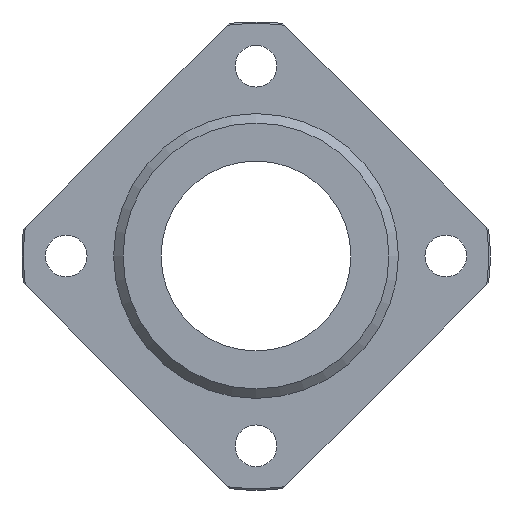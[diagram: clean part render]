
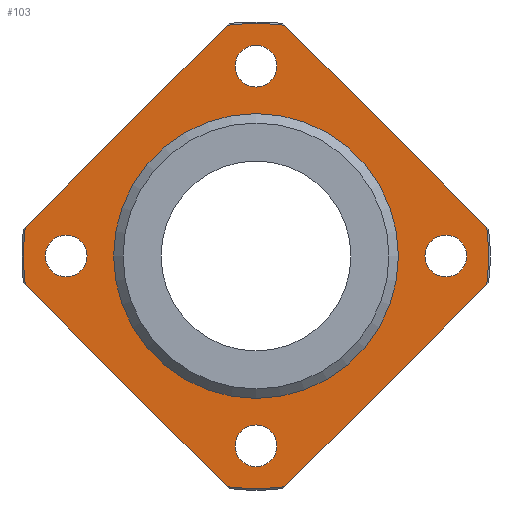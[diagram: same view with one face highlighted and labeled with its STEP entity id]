
A CAD part, left-side view. The second image highlights one B-rep face of the part: STEP entity #103.
In plain terms, the highlighted planar face has unit normal (-1, 0, 0).
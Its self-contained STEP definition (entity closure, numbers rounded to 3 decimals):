
#103=ADVANCED_FACE('',(#188,#189,#190,#191,#192,#193),#194,.F.);
#188=FACE_OUTER_BOUND('',#291,.T.);
#189=FACE_BOUND('',#292,.T.);
#190=FACE_BOUND('',#293,.T.);
#191=FACE_BOUND('',#294,.T.);
#192=FACE_BOUND('',#295,.T.);
#193=FACE_BOUND('',#296,.T.);
#194=PLANE('',#297);
#291=EDGE_LOOP('',(#512,#513,#514,#515,#516,#517,#518,#519));
#292=EDGE_LOOP('',(#520));
#293=EDGE_LOOP('',(#521));
#294=EDGE_LOOP('',(#522));
#295=EDGE_LOOP('',(#523));
#296=EDGE_LOOP('',(#524));
#297=AXIS2_PLACEMENT_3D('',#525,#526,#527);
#512=ORIENTED_EDGE('',*,*,#638,.T.);
#513=ORIENTED_EDGE('',*,*,#624,.T.);
#514=ORIENTED_EDGE('',*,*,#639,.T.);
#515=ORIENTED_EDGE('',*,*,#589,.T.);
#516=ORIENTED_EDGE('',*,*,#640,.T.);
#517=ORIENTED_EDGE('',*,*,#596,.T.);
#518=ORIENTED_EDGE('',*,*,#582,.T.);
#519=ORIENTED_EDGE('',*,*,#578,.T.);
#520=ORIENTED_EDGE('',*,*,#627,.T.);
#521=ORIENTED_EDGE('',*,*,#630,.T.);
#522=ORIENTED_EDGE('',*,*,#633,.T.);
#523=ORIENTED_EDGE('',*,*,#636,.T.);
#524=ORIENTED_EDGE('',*,*,#641,.T.);
#525=CARTESIAN_POINT('',(-14.0,36.746,0.0));
#526=DIRECTION('',(1.0,0.0,0.0));
#527=DIRECTION('',(0.0,0.0,-1.0));
#578=EDGE_CURVE('',#655,#653,#656,.T.);
#582=EDGE_CURVE('',#662,#655,#663,.T.);
#589=EDGE_CURVE('',#676,#674,#677,.T.);
#596=EDGE_CURVE('',#689,#662,#690,.T.);
#624=EDGE_CURVE('',#734,#732,#735,.T.);
#627=EDGE_CURVE('',#739,#739,#740,.T.);
#630=EDGE_CURVE('',#745,#745,#746,.T.);
#633=EDGE_CURVE('',#751,#751,#752,.T.);
#636=EDGE_CURVE('',#757,#757,#758,.T.);
#638=EDGE_CURVE('',#653,#734,#761,.T.);
#639=EDGE_CURVE('',#732,#676,#762,.T.);
#640=EDGE_CURVE('',#674,#689,#763,.T.);
#641=EDGE_CURVE('',#764,#764,#765,.T.);
#653=VERTEX_POINT('',#786);
#655=VERTEX_POINT('',#791);
#656=LINE('',#792,#793);
#662=VERTEX_POINT('',#806);
#663=CIRCLE('',#807,36.746);
#674=VERTEX_POINT('',#826);
#676=VERTEX_POINT('',#831);
#677=LINE('',#832,#833);
#689=VERTEX_POINT('',#857);
#690=LINE('',#858,#859);
#732=VERTEX_POINT('',#917);
#734=VERTEX_POINT('',#922);
#735=LINE('',#923,#924);
#739=VERTEX_POINT('',#931);
#740=CIRCLE('',#932,3.3);
#745=VERTEX_POINT('',#937);
#746=CIRCLE('',#938,3.3);
#751=VERTEX_POINT('',#943);
#752=CIRCLE('',#944,3.3);
#757=VERTEX_POINT('',#949);
#758=CIRCLE('',#950,3.3);
#761=CIRCLE('',#953,36.746);
#762=CIRCLE('',#954,36.746);
#763=CIRCLE('',#955,36.746);
#764=VERTEX_POINT('',#956);
#765=CIRCLE('',#957,22.5);
#786=CARTESIAN_POINT('',(-14.0,-4.549,36.463));
#791=CARTESIAN_POINT('',(-14.0,-36.463,4.549));
#792=CARTESIAN_POINT('',(-14.0,-2.133,38.879));
#793=VECTOR('',#968,1.0);
#806=CARTESIAN_POINT('',(-14.0,-36.463,-4.549));
#807=AXIS2_PLACEMENT_3D('',#970,#971,#972);
#826=CARTESIAN_POINT('',(-14.0,4.549,-36.463));
#831=CARTESIAN_POINT('',(-14.0,36.463,-4.549));
#832=CARTESIAN_POINT('',(-14.0,38.879,-2.133));
#833=VECTOR('',#978,1.0);
#857=CARTESIAN_POINT('',(-14.0,-4.549,-36.463));
#858=CARTESIAN_POINT('',(-14.0,-2.133,-38.879));
#859=VECTOR('',#982,1.0);
#917=CARTESIAN_POINT('',(-14.0,36.463,4.549));
#922=CARTESIAN_POINT('',(-14.0,4.549,36.463));
#923=CARTESIAN_POINT('',(-14.0,38.879,2.133));
#924=VECTOR('',#1041,1.0);
#931=CARTESIAN_POINT('',(-14.0,30.0,-3.3));
#932=AXIS2_PLACEMENT_3D('',#1045,#1046,#1047);
#937=CARTESIAN_POINT('',(-14.0,0.0,26.7));
#938=AXIS2_PLACEMENT_3D('',#1054,#1055,#1056);
#943=CARTESIAN_POINT('',(-14.0,-30.0,-3.3));
#944=AXIS2_PLACEMENT_3D('',#1063,#1064,#1065);
#949=CARTESIAN_POINT('',(-14.0,0.,-33.3));
#950=AXIS2_PLACEMENT_3D('',#1072,#1073,#1074);
#953=AXIS2_PLACEMENT_3D('',#1078,#1079,#1080);
#954=AXIS2_PLACEMENT_3D('',#1081,#1082,#1083);
#955=AXIS2_PLACEMENT_3D('',#1084,#1085,#1086);
#956=CARTESIAN_POINT('',(-14.0,0.0,-22.5));
#957=AXIS2_PLACEMENT_3D('',#1087,#1088,#1089);
#968=DIRECTION('',(0.0,0.707,0.707));
#970=CARTESIAN_POINT('',(-14.0,0.0,0.0));
#971=DIRECTION('',(-1.0,0.0,0.0));
#972=DIRECTION('',(0.0,0.0,1.0));
#978=DIRECTION('',(0.0,-0.707,-0.707));
#982=DIRECTION('',(0.0,-0.707,0.707));
#1041=DIRECTION('',(0.0,0.707,-0.707));
#1045=CARTESIAN_POINT('',(-14.0,30.0,0.0));
#1046=DIRECTION('',(1.0,0.0,0.0));
#1047=DIRECTION('',(0.0,0.0,-1.0));
#1054=CARTESIAN_POINT('',(-14.0,0.0,30.0));
#1055=DIRECTION('',(1.0,0.0,0.0));
#1056=DIRECTION('',(0.0,0.0,-1.0));
#1063=CARTESIAN_POINT('',(-14.0,-30.0,0.));
#1064=DIRECTION('',(1.0,0.0,0.0));
#1065=DIRECTION('',(0.0,0.0,-1.0));
#1072=CARTESIAN_POINT('',(-14.0,0.,-30.0));
#1073=DIRECTION('',(1.0,0.0,0.0));
#1074=DIRECTION('',(0.0,0.0,-1.0));
#1078=CARTESIAN_POINT('',(-14.0,0.0,0.0));
#1079=DIRECTION('',(-1.0,0.0,0.0));
#1080=DIRECTION('',(0.0,0.0,1.0));
#1081=CARTESIAN_POINT('',(-14.0,0.0,0.0));
#1082=DIRECTION('',(-1.0,0.0,0.0));
#1083=DIRECTION('',(0.0,0.0,1.0));
#1084=CARTESIAN_POINT('',(-14.0,0.0,0.0));
#1085=DIRECTION('',(-1.0,0.0,0.0));
#1086=DIRECTION('',(0.0,0.0,1.0));
#1087=CARTESIAN_POINT('',(-14.0,0.0,0.0));
#1088=DIRECTION('',(1.0,0.0,0.0));
#1089=DIRECTION('',(0.0,0.0,-1.0));
